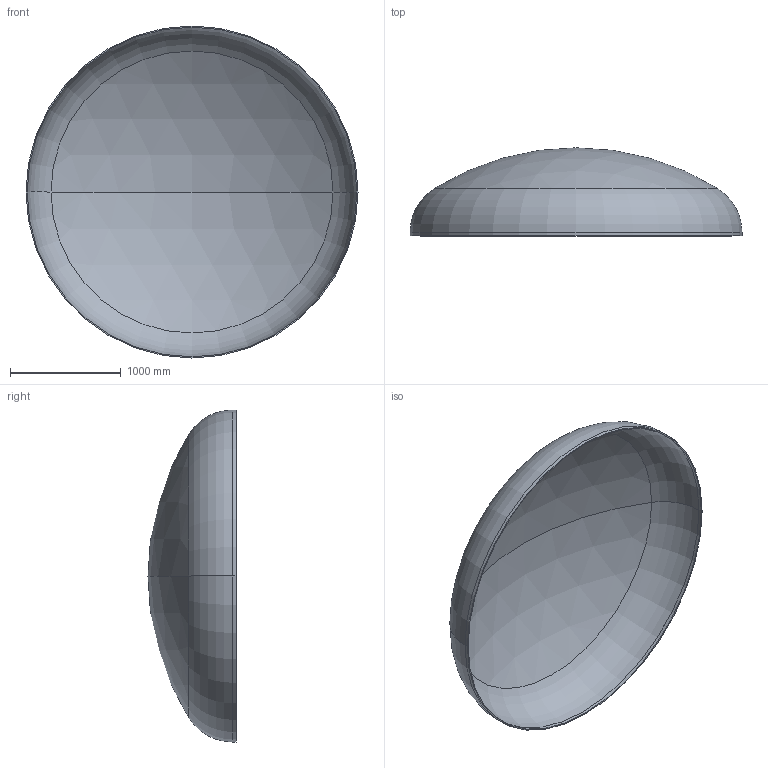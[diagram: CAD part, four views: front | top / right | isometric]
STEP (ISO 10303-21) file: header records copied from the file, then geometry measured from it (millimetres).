
FILE_DESCRIPTION (( 'STEP AP203' ), '1' );
FILE_NAME ('DIN 28013 Korbbogenform_-_Boden DIN 28013 - 3000 x 30 - I - s=10.step', '2016-07-01T17:28:21', ( '' ), ( '' ), 'SwSTEP 2.0', 'SolidWorks 2013', '' );
FILE_SCHEMA (( 'CONFIG_CONTROL_DESIGN' ));
Length unit declared in the file: millimetre
Products named in the file (1): DIN 28013 Korbbogenform_-_Boden DIN 28013 - 3000 x 30 - I - s=10
Bounding box: 3000 x 796.01 x 3000 mm (x, y, z)
Volume: 100210575.1 mm3; surface area: 20136249.9 mm2
Topology: 1 solids, 1 shells, 13 faces, 24 edges, 14 vertices
Faces by surface type: torus 4, cylinder 4, sphere 4, plane 1
Entity records: 407 total; most frequent: DIRECTION 72, CARTESIAN_POINT 52, ORIENTED_EDGE 48, AXIS2_PLACEMENT_3D 34, EDGE_CURVE 24, CIRCLE 20, VERTEX_POINT 14, EDGE_LOOP 14
